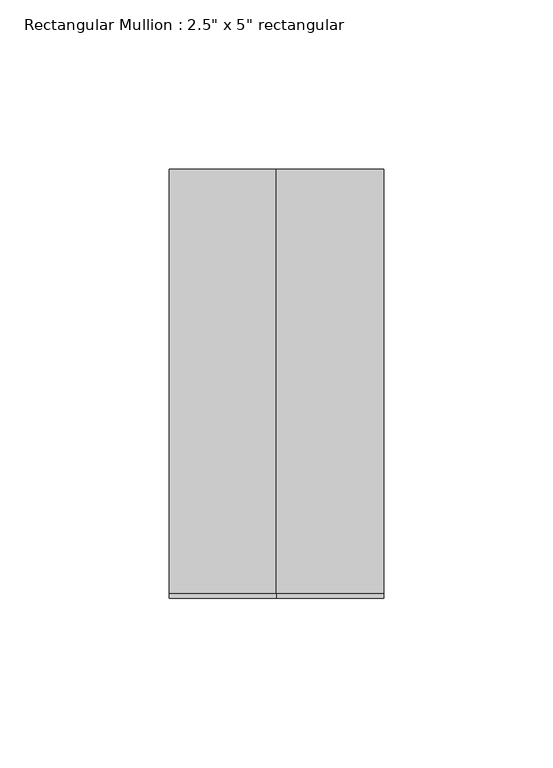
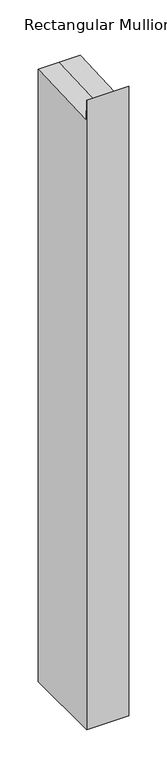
"""IFC4 building model written with IfcOpenShell, lengths in millimetres: member geometry."""

from ifc_helpers import new_model, si_unit, origin, place, context, project, spatial, faceted_brep, source, transform, mapped, element, save


def member_9ef624ad(model_context):
    return source(origin(), model_context, "Body", "Brep", [
        faceted_brep([(31.75, 63.5, -976.0678627), (31.75, -63.5, -976.0678627), (-31.75, -63.5, -976.0678627), (-31.75, 63.5, -976.0678627), (-31.75, 63.5, 2.7618988), (0.0, 63.5, 2.7618988), (31.75, 63.5, 2.7618988), (-31.75, -63.5, 30.354381), (-31.75, -62.043738, -2.7592318), (31.75, -63.5, 30.354381), (0.0, -63.5, 30.354381), (31.75, -62.043738, -2.7592318), (0.0, -62.043738, -2.7592318)], [[[0, 1, 2, 3]], [[4, 5, 6, 0, 3]], [[7, 8, 4, 3, 2]], [[9, 10, 7, 2, 1]], [[6, 11, 9, 1, 0]], [[6, 5, 12, 11]], [[5, 4, 8, 12]], [[8, 7, 10, 12]], [[10, 9, 11, 12]]]),
    ])


if __name__ == "__main__":
    model = new_model("IFC4")
    model_context = context("Model", 3, world=origin())
    ifc_project = project(units=[si_unit("LENGTHUNIT", "METRE", prefix="MILLI")], contexts=[model_context])
    site = spatial("IfcSite", under=ifc_project)
    building = spatial("IfcBuilding", under=site)
    placement = place(None, origin())
    member_shape = member_9ef624ad(model_context)
    element("IfcMember", 1, ObjectType="Rectangular Mullion : 2.5\" x 5\" rectangular", at=placement, inside=building, context=model_context, shape_type="MappedRepresentation", body=[
        mapped(member_shape, transform((0.0, 0.0, 0.0), x_axis=(1.0, 0.0, 0.0), y_axis=(0.0, 1.0, 0.0), z_axis=(0.0, 0.0, 1.0))),
    ])
    save(model, "model.ifc")
